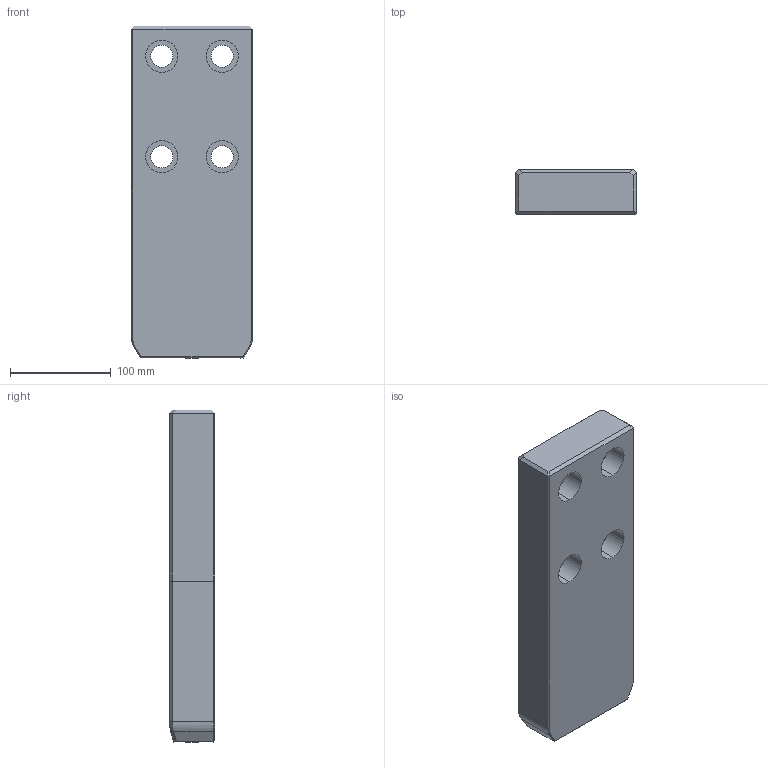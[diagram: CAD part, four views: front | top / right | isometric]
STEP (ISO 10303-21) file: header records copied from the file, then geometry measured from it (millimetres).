
FILE_DESCRIPTION((''),'2;1');
FILE_NAME('','2010-08-30T14:08:52+09:00',('misumi'),(''),'M/STEP i/f 1R2-14','CADmeister v5.1','');
FILE_SCHEMA(('AUTOMOTIVE_DESIGN'));
Length unit declared in the file: millimetre
Products named in the file (1): OGPZ120-330
Bounding box: 120 x 45 x 330 mm (x, y, z)
Volume: 1658652.1 mm3; surface area: 129481.9 mm2
Topology: 1 solids, 1 shells, 66 faces, 156 edges, 97 vertices
Faces by surface type: plane 37, cylinder 21, bspline 6, cone 2
Entity records: 2262 total; most frequent: CARTESIAN_POINT 662, ORIENTED_EDGE 312, DIRECTION 300, EDGE_CURVE 156, AXIS2_PLACEMENT_3D 101, LINE 98, VECTOR 98, VERTEX_POINT 97
